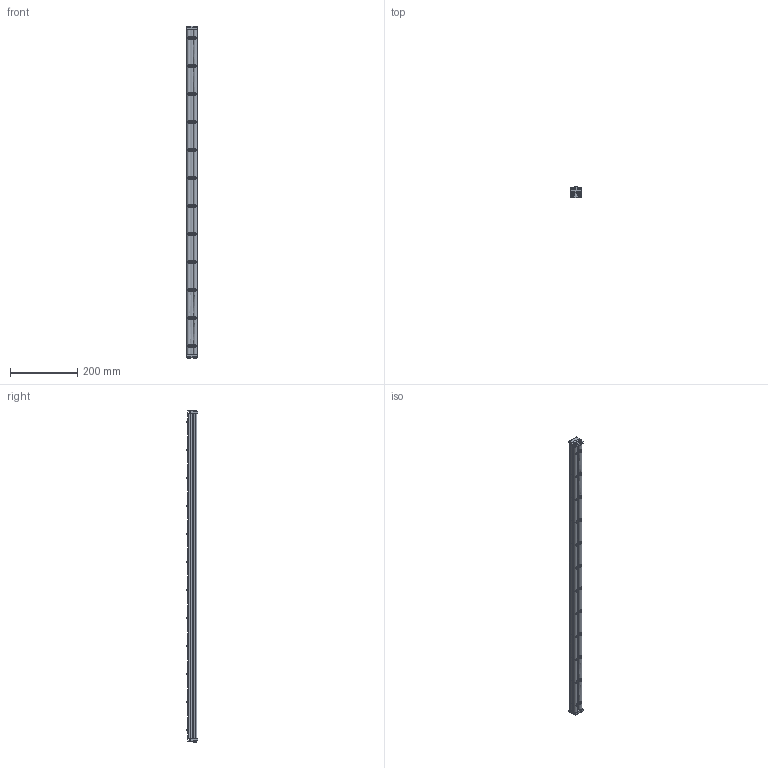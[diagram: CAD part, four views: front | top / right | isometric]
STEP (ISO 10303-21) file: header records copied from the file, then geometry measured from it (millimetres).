
FILE_DESCRIPTION((''),'2;1');
FILE_NAME('206523-38_ASM','2023-02-27T',('jenni.wallner'),(''),'PRO/ENGINEER BY PARAMETRIC TECHNOLOGY CORPORATION, 2012420','PRO/ENGINEER BY PARAMETRIC TECHNOLOGY CORPORATION, 2012420','');
FILE_SCHEMA(('CONFIG_CONTROL_DESIGN'));
Length unit declared in the file: inch
Products named in the file (7): 240826; 9506XXM_950616M; 2410WW_241038; 205977_205978_205979_205978; 2436WW_243638; ASM0001_ASM; 206523-38_ASM
Assembly tree (21 placements, depth 3):
  206523-38_ASM
    ASM0001_ASM
      240826  x12
      9506XXM_950616M  x4
      2410WW_241038
      205977_205978_205979_205978  x2
      2436WW_243638
Bounding box: 30.89 x 33.01 x 985.75 mm (x, y, z)
Volume: 471101.9 mm3; surface area: 280377.8 mm2
Topology: 20 solids, 20 shells, 758 faces, 2146 edges, 1412 vertices
Faces by surface type: cylinder 344, plane 250, cone 116, torus 48
Entity records: 18003 total; most frequent: CARTESIAN_POINT 4482, ORIENTED_EDGE 2946, DIRECTION 2841, EDGE_CURVE 1473, AXIS2_PLACEMENT_3D 1077, VERTEX_POINT 982, VECTOR 687, LINE 687
